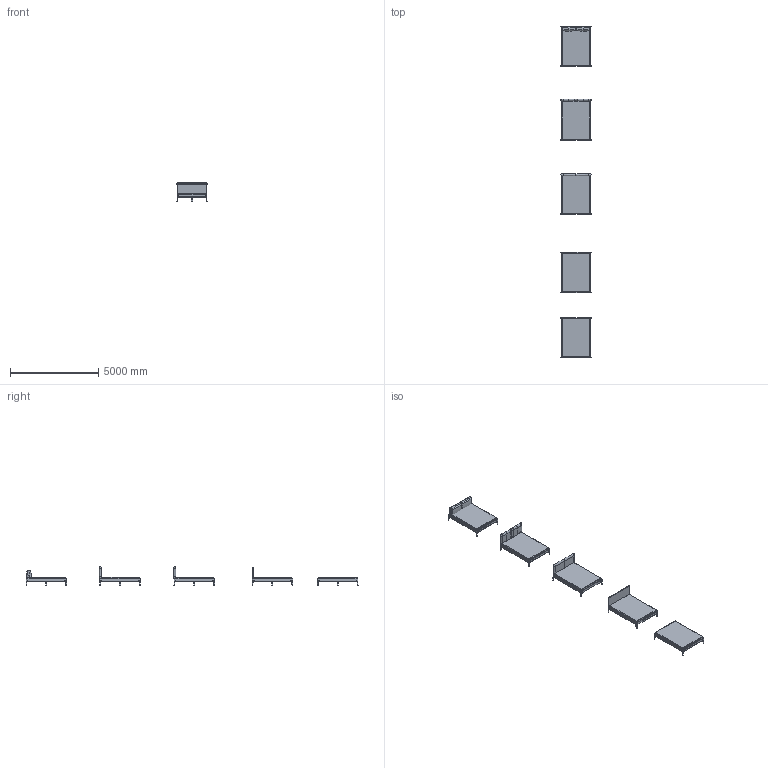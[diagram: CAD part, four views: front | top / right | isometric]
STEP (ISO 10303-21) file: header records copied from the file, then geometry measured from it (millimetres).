
FILE_DESCRIPTION(/* description */ (''),/* implementation_level */ '2;1');
FILE_NAME(/* name */ '160x220',/* time_stamp */ '2025-10-27T19:07:47+01:00',/* author */ (''),/* organization */ (''),/* preprocessor_version */ 'ST-DEVELOPER v16.5',/* originating_system */ 'Rhino 7.38',/* authorisation */ '');
FILE_SCHEMA (('CONFIG_CONTROL_DESIGN'));
Length unit declared in the file: millimetre
Products named in the file (1): Document
Bounding box: 1704.77 x 18827.24 x 1061.92 mm (x, y, z)
Volume: 4277849980.9 mm3; surface area: 71049269.8 mm2
Topology: 63 solids, 63 shells, 1049 faces, 2346 edges, 1402 vertices
Faces by surface type: plane 548, bspline 376, cylinder 125
Entity records: 145963 total; most frequent: CARTESIAN_POINT 129947, ORIENTED_EDGE 4620, EDGE_CURVE 2310, B_SPLINE_CURVE_WITH_KNOTS 1972, VERTEX_POINT 1402, EDGE_LOOP 1064, ADVANCED_FACE 1049, FACE_OUTER_BOUND 1049
